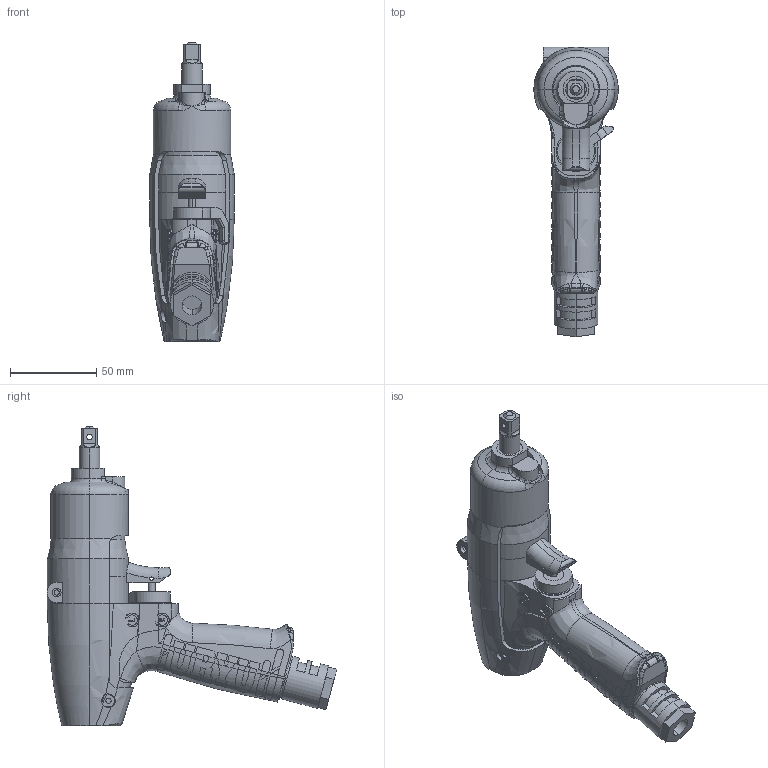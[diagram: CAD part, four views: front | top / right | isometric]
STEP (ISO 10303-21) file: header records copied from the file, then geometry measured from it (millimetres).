
FILE_DESCRIPTION (( 'STEP AP203' ), '1' );
FILE_NAME ('UAT60.STEP', '2015-07-23T01:56:39', ( '' ), ( '' ), 'SwSTEP 2.0', 'SolidWorks 2014', '' );
FILE_SCHEMA (( 'CONFIG_CONTROL_DESIGN' ));
Length unit declared in the file: millimetre
Products named in the file (8): 1458408_ULT60; UAT60; 1453196_ULT60; 1454397_ULT60; 1450256_UAT60; 4802128_ULT60; 1471072_ULT60; 1478422_UAT60
Assembly tree (7 placements, depth 2):
  UAT60
    1453196_ULT60
    1454397_ULT60
    1450256_UAT60
    4802128_ULT60
    1471072_ULT60
    1478422_UAT60
    1458408_ULT60
Bounding box: 49 x 167.85 x 173.7 mm (x, y, z)
Volume: 332122.7 mm3; surface area: 94302.8 mm2
Topology: 7 solids, 7 shells, 1228 faces, 3396 edges, 2207 vertices
Faces by surface type: plane 709, bspline 227, cylinder 222, torus 44, cone 26
Entity records: 59694 total; most frequent: CARTESIAN_POINT 31011, ORIENTED_EDGE 6772, DIRECTION 4334, EDGE_CURVE 3386, VERTEX_POINT 2207, VECTOR 1458, LINE 1458, AXIS2_PLACEMENT_3D 1438
